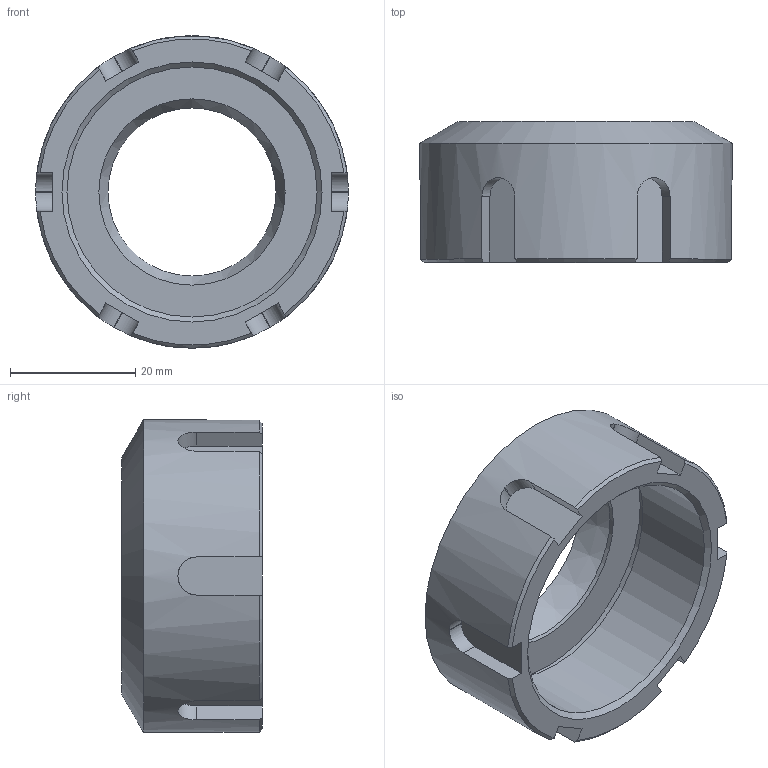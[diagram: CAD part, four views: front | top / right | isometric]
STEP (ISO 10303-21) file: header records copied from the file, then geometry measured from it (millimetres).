
FILE_DESCRIPTION(/* description */ ('STEP AP214'),/* implementation_level */ '2;1');
FILE_NAME(/* name */ '609491e39ecec20f3f0788b1',/* time_stamp */ '2021-05-07T01:03:32+00:00',/* author */ (''),/* organization */ (''),/* preprocessor_version */ 'ST-DEVELOPER v18.1',/* originating_system */ ' ',/* authorisation */ ' ');
FILE_SCHEMA (('AUTOMOTIVE_DESIGN {1 0 10303 214 3 1 1}'));
Length unit declared in the file: metre
Products named in the file (1): ER32 Collet Nut
Bounding box: 50 x 22.5 x 50 mm (x, y, z)
Volume: 16234 mm3; surface area: 9203.5 mm2
Topology: 1 solids, 1 shells, 54 faces, 146 edges, 97 vertices
Faces by surface type: plane 29, cylinder 16, cone 9
Full cylindrical faces by diameter (mm): 29.8 x1, 40 x1, 42 x1, 50 x1
Entity records: 1720 total; most frequent: CARTESIAN_POINT 371, ORIENTED_EDGE 274, DIRECTION 264, EDGE_CURVE 137, AXIS2_PLACEMENT_3D 96, VERTEX_POINT 95, LINE 72, VECTOR 72
